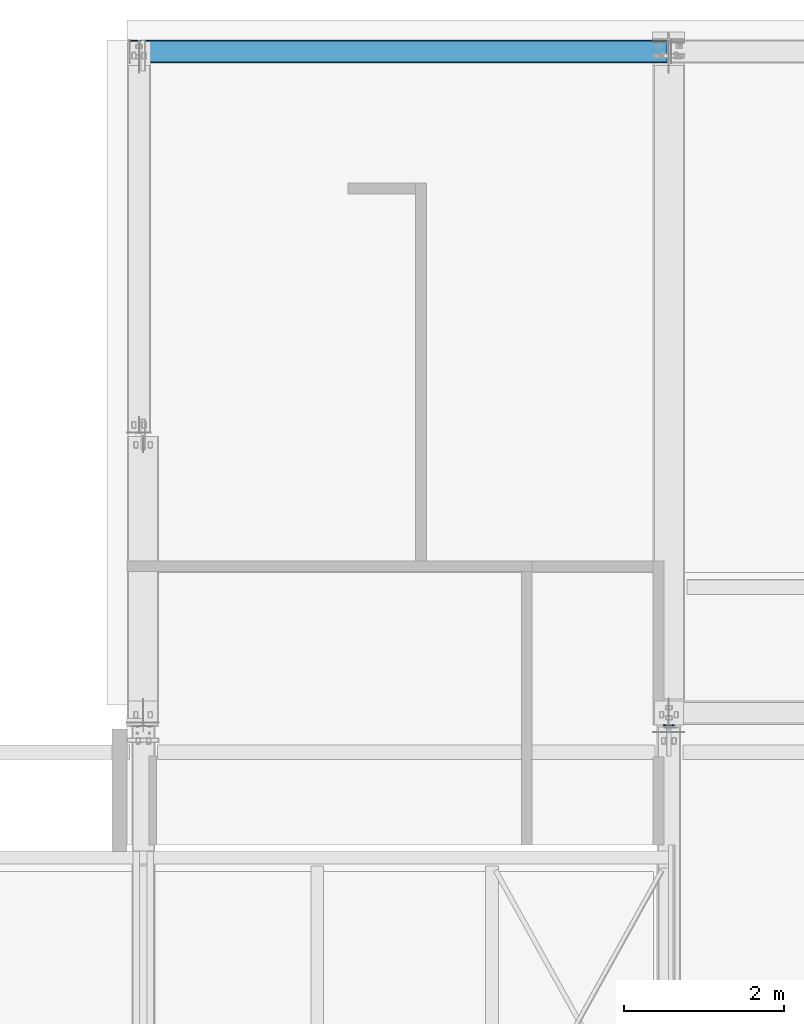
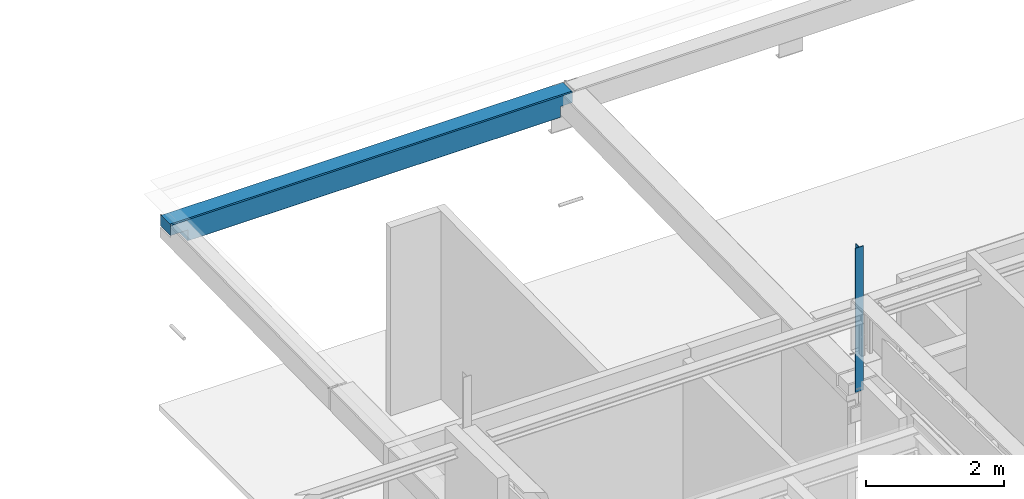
# One storey, part 132 of 186: 2 beams.
"""IFC4X3_ADD2 building model written with IfcOpenShell, lengths in millimetres."""

from ifc_helpers import new_model, si_unit, direction, frame, origin_with_axes, place, context, subcontext, project, spatial, polygons, element, save


model = new_model("IFC4X3_ADD2")

# Units and contexts
model_context = context("Model", 3, precision=1e-05, world=origin_with_axes(), true_north=direction((0.0, 1.0)))
body_context = subcontext(model_context, "Body", "Model", "MODEL_VIEW")
ifc_project = project(units=[si_unit("LENGTHUNIT", "METRE", prefix="MILLI"), si_unit("AREAUNIT", "SQUARE_METRE"), si_unit("VOLUMEUNIT", "CUBIC_METRE"), si_unit("PLANEANGLEUNIT", "RADIAN"), si_unit("TIMEUNIT", "SECOND"), si_unit("MASSUNIT", "GRAM")], contexts=[model_context])

# Site, building, storey
site_placement = place(None, origin_with_axes())
site = spatial("IfcSite", under=ifc_project, at=site_placement, Name="Site", CompositionType="ELEMENT")
building_placement = place(site_placement, origin_with_axes())
building = spatial("IfcBuilding", under=site, at=building_placement, Name="IFC Building Story")
storey_placement = place(building_placement, frame((0.0, 0.0, 4370.0), z_axis=(0.0, 0.0, 1.0), x_axis=(1.0, 0.0, 0.0)))
storey = spatial("IfcBuildingStorey", under=building, at=storey_placement, Name="ETAGE 10 (1)", Elevation=4370.0)

# Beams
beam_1_placement = place(storey_placement, frame((0.0, 0.0, -4370.0), z_axis=(0.0, 0.0, 1.0), x_axis=(1.0, 0.0, 0.0)))
element("IfcBeam", 1, at=beam_1_placement, inside=storey, Name="BEAM", ObjectType="CRH_R_400*290*15", context=body_context, shape_type="Tessellation", body=[
    polygons([(33516.1882247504, 26544.9996948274, 7329.5290963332), (33616.1882247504, 26544.99969482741, 7329.5290963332), (33616.1882247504, 26264.99969482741, 7329.5290963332), (33516.1882247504, 26264.99969482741, 7329.5290963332), (33616.1882247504, 26534.9996948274, 7319.5290963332), (33616.1882247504, 26274.99969482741, 7319.5290963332), (39946.18825746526, 26534.9996948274, 7719.5290963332), (33226.1882247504, 26534.9996948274, 7719.5290963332), (33226.1882247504, 26274.99969482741, 7719.5290963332), (39946.18825746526, 26274.99969482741, 7719.5290963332), (33226.1882247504, 26259.9996948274, 7704.529096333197), (39946.18825746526, 26259.9996948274, 7704.529096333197), (33516.1882247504, 26259.9996948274, 7334.529096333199), (39746.18825746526, 26259.9996948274, 7334.529096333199), (39746.18825746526, 26259.9996948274, 7524.529096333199), (39946.18825746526, 26259.9996948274, 7524.529096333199), (33226.1882247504, 26259.9996948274, 7524.529096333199), (33516.1882247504, 26259.9996948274, 7524.529096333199), (39746.18825746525, 26549.9996948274, 7334.529096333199), (39746.18825746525, 26549.9996948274, 7524.529096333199), (39746.18825746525, 26274.99969482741, 7319.5290963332), (39746.18825746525, 26534.9996948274, 7319.5290963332), (39946.18825746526, 26549.9996948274, 7524.5290963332), (39946.18825746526, 26549.9996948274, 7704.5290963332), (33226.1882247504, 26549.9996948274, 7704.529096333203), (33226.1882247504, 26549.9996948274, 7524.529096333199), (33516.1882247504, 26549.9996948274, 7524.5290963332), (33516.1882247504, 26549.9996948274, 7334.529096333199)], [[[1, 2, 3, 4]], [[2, 5, 6, 3]], [[7, 8, 9, 10]], [[10, 9, 11, 12]], [[15, 16, 12]], [[15, 12, 18]], [[18, 13, 14]], [[18, 14, 15]], [[12, 11, 18]], [[11, 17, 18]], [[19, 20, 15]], [[19, 15, 14]], [[19, 14, 21]], [[19, 21, 22]], [[20, 23, 16, 15]], [[23, 24, 7]], [[23, 7, 10]], [[23, 10, 12]], [[23, 12, 16]], [[24, 25, 8, 7]], [[17, 11, 9]], [[17, 9, 8]], [[17, 8, 25]], [[17, 25, 26]], [[18, 17, 26, 27]], [[27, 26, 25]], [[27, 25, 20]], [[20, 19, 28]], [[20, 28, 27]], [[25, 24, 20]], [[24, 23, 20]], [[4, 13, 18]], [[4, 18, 27]], [[4, 27, 28]], [[4, 28, 1]], [[3, 6, 21]], [[3, 21, 14]], [[14, 13, 3]], [[13, 4, 3]], [[5, 22, 21, 6]], [[2, 1, 28]], [[2, 28, 19]], [[19, 22, 5]], [[19, 5, 2]]]),
])
beam_2_placement = place(storey_placement, frame((0.0, 0.0, -4370.0), z_axis=(0.0, 0.0, 1.0), x_axis=(1.0, 0.0, 0.0)))
element("IfcBeam", 2, at=beam_2_placement, inside=storey, Name="PS6", ObjectType="HALF_IPE270_100", context=body_context, shape_type="Tessellation", body=[
    polygons([(39962.88900000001, 18088.1, 9979.94999999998), (39962.88900000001, 18088.1, 7429.949999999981), (39962.88900000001, 17998.29999981, 7429.949999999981), (39962.88900000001, 17998.29999981, 9979.94999999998), (39898.689, 17998.29999981, 7429.949999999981), (39898.689, 17998.29999981, 9979.94999999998), (39898.689, 17988.1, 7429.949999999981), (39898.689, 17988.1, 9979.94999999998), (40033.68900000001, 17988.1, 7429.949999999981), (40033.68900000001, 17988.1, 9979.94999999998), (40033.68900000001, 17998.29999981, 7429.949999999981), (40033.68900000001, 17998.29999981, 9979.94999999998), (39969.48900000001, 17998.29999981, 7429.949999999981), (39969.48900000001, 17998.29999981, 9979.94999999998), (39969.48900000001, 18088.1, 7429.949999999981), (39969.48900000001, 18088.1, 9979.94999999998)], [[[1, 2, 3, 4]], [[4, 3, 5, 6]], [[6, 5, 7, 8]], [[8, 7, 9, 10]], [[10, 9, 11, 12]], [[12, 11, 13, 14]], [[14, 13, 15, 16]], [[16, 15, 2, 1]], [[4, 6, 8]], [[4, 8, 14]], [[14, 16, 1]], [[14, 1, 4]], [[8, 10, 14]], [[10, 12, 14]], [[13, 11, 9]], [[13, 9, 3]], [[3, 2, 15]], [[3, 15, 13]], [[9, 7, 3]], [[7, 5, 3]]]),
])

save(model, "model.ifc")
